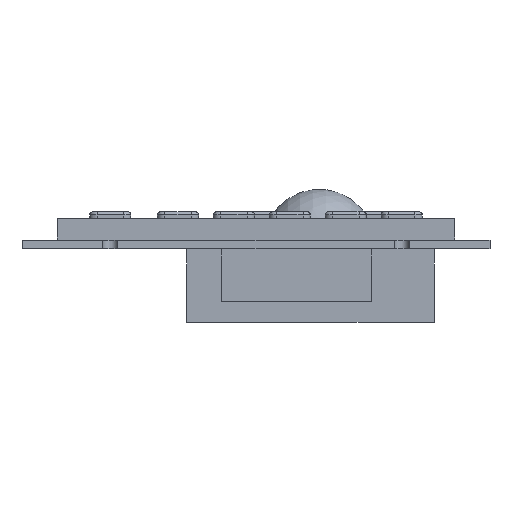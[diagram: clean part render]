
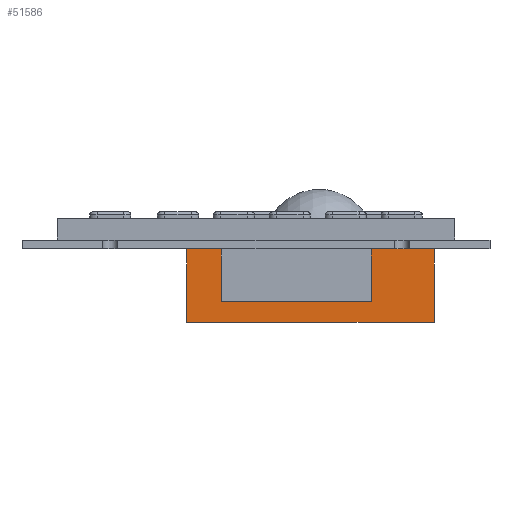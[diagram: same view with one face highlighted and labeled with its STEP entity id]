
A CAD part, front view. The second image highlights one B-rep face of the part: STEP entity #51586.
In plain terms, the highlighted planar face has unit normal (0, -1, 0).
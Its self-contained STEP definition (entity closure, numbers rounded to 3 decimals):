
#50151=CARTESIAN_POINT('Line Origine',(18.5,81.441,-10.3)) ;
#50155=CARTESIAN_POINT('Vertex',(60.5,81.441,-10.3)) ;
#50157=CARTESIAN_POINT('Vertex',(-23.5,81.441,-10.3)) ;
#51500=CARTESIAN_POINT('Vertex',(60.5,81.441,-35.3)) ;
#51510=CARTESIAN_POINT('Line Origine',(60.5,81.441,-22.8)) ;
#51527=CARTESIAN_POINT('Line Origine',(18.5,81.441,-35.3)) ;
#51531=CARTESIAN_POINT('Vertex',(-23.5,81.441,-35.3)) ;
#51570=CARTESIAN_POINT('Axis2P3D Location',(60.5,81.441,0.)) ;
#51575=CARTESIAN_POINT('Line Origine',(-23.5,81.441,-22.8)) ;
#50152=DIRECTION('Vector Direction',(-1.,0.,0.)) ;
#51511=DIRECTION('Vector Direction',(0.,0.,-1.)) ;
#51528=DIRECTION('Vector Direction',(-1.,0.,0.)) ;
#51571=DIRECTION('Axis2P3D Direction',(-0.,-1.,-0.)) ;
#51572=DIRECTION('Axis2P3D XDirection',(-1.,0.,0.)) ;
#51576=DIRECTION('Vector Direction',(0.,0.,-1.)) ;
#51573=AXIS2_PLACEMENT_3D('Plane Axis2P3D',#51570,#51571,#51572) ;
#51581=ORIENTED_EDGE('',*,*,#51514,.F.) ;
#51582=ORIENTED_EDGE('',*,*,#50159,.T.) ;
#51583=ORIENTED_EDGE('',*,*,#51579,.T.) ;
#51584=ORIENTED_EDGE('',*,*,#51533,.F.) ;
#50153=VECTOR('Line Direction',#50152,1.) ;
#51512=VECTOR('Line Direction',#51511,1.) ;
#51529=VECTOR('Line Direction',#51528,1.) ;
#51577=VECTOR('Line Direction',#51576,1.) ;
#51586=ADVANCED_FACE('\X2\96F64EF651E04F554F53\X0\',(#51585),#51574,.T.) ;
#50159=EDGE_CURVE('',#50156,#50158,#50154,.T.) ;
#51514=EDGE_CURVE('',#50156,#51501,#51513,.T.) ;
#51533=EDGE_CURVE('',#51501,#51532,#51530,.T.) ;
#51579=EDGE_CURVE('',#50158,#51532,#51578,.T.) ;
#51580=EDGE_LOOP('',(#51581,#51582,#51583,#51584)) ;
#51585=FACE_OUTER_BOUND('',#51580,.T.) ;
#50154=LINE('Line',#50151,#50153) ;
#51513=LINE('Line',#51510,#51512) ;
#51530=LINE('Line',#51527,#51529) ;
#51578=LINE('Line',#51575,#51577) ;
#51574=PLANE('',#51573) ;
#50156=VERTEX_POINT('',#50155) ;
#50158=VERTEX_POINT('',#50157) ;
#51501=VERTEX_POINT('',#51500) ;
#51532=VERTEX_POINT('',#51531) ;
